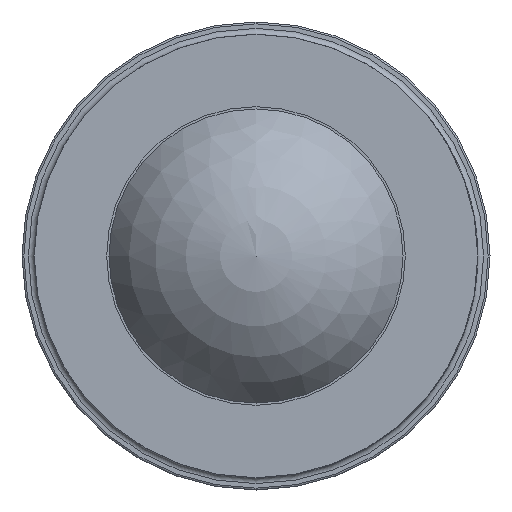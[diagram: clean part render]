
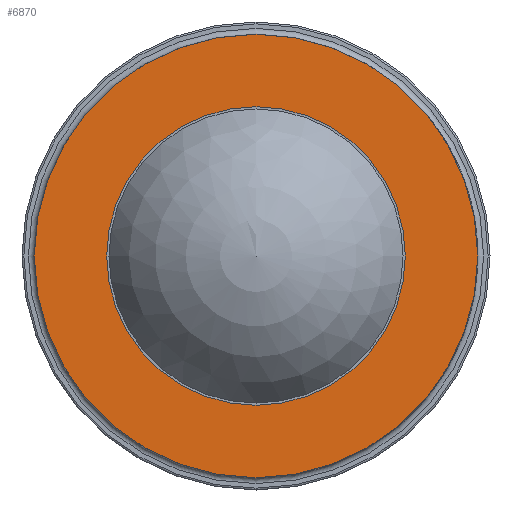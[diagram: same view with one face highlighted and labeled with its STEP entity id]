
A CAD part, left-side view. The second image highlights one B-rep face of the part: STEP entity #6870.
In plain terms, the highlighted planar face has unit normal (-1, 0, 0).
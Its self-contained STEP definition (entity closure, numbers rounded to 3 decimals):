
#849=PLANE('',#7219);
#1251=ORIENTED_EDGE('',*,*,#2703,.T.);
#1252=ORIENTED_EDGE('',*,*,#2702,.F.);
#2702=EDGE_CURVE('',#3427,#3427,#3735,.T.);
#2703=EDGE_CURVE('',#3428,#3428,#3736,.T.);
#3427=VERTEX_POINT('',#9454);
#3428=VERTEX_POINT('',#9457);
#3735=CIRCLE('',#7218,30.086);
#3736=CIRCLE('',#7220,20.257);
#3831=EDGE_LOOP('',(#1251));
#3832=EDGE_LOOP('',(#1252));
#4242=FACE_BOUND('',#3831,.T.);
#4243=FACE_BOUND('',#3832,.T.);
#6870=ADVANCED_FACE('',(#4242,#4243),#849,.T.);
#7218=AXIS2_PLACEMENT_3D('',#9453,#7589,#7590);
#7219=AXIS2_PLACEMENT_3D('',#9455,#7591,#7592);
#7220=AXIS2_PLACEMENT_3D('',#9456,#7593,#7594);
#7589=DIRECTION('',(1.,0.,0.));
#7590=DIRECTION('',(0.,0.,1.));
#7591=DIRECTION('',(-1.,0.,0.));
#7592=DIRECTION('',(0.,0.,-1.));
#7593=DIRECTION('',(1.,0.,0.));
#7594=DIRECTION('',(0.,-1.,0.));
#9453=CARTESIAN_POINT('',(-129.337,0.,0.));
#9454=CARTESIAN_POINT('',(-129.337,0.,30.086));
#9455=CARTESIAN_POINT('',(-129.337,0.,30.086));
#9456=CARTESIAN_POINT('',(-129.337,0.,0.));
#9457=CARTESIAN_POINT('',(-129.337,-20.257,0.));
